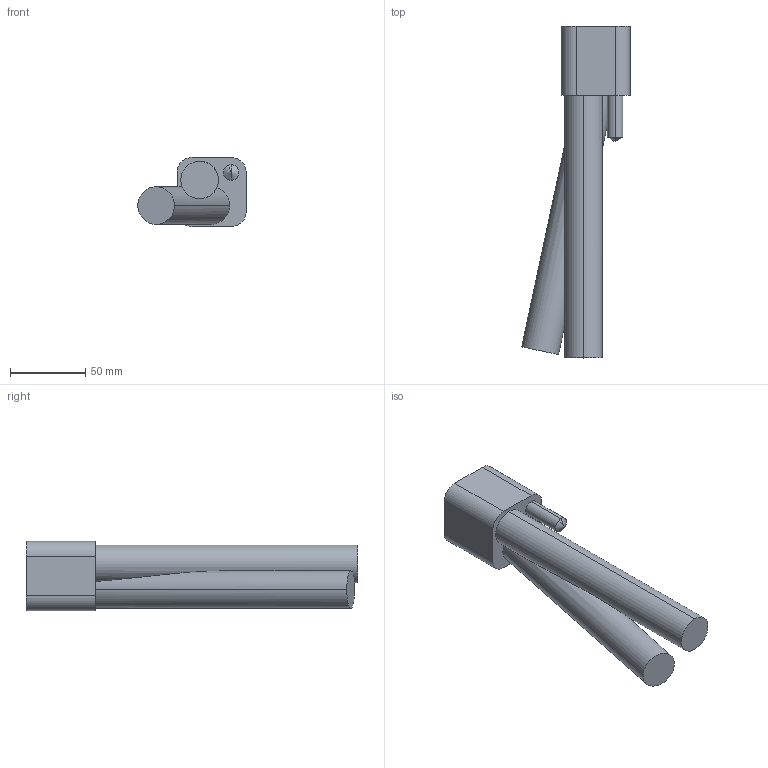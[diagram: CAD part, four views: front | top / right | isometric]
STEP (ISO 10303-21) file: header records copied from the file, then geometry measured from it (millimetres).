
FILE_DESCRIPTION (( 'STEP AP203' ), '1' );
FILE_NAME ('DR46100L-12.STEP', '2016-11-08T07:28:27', ( '' ), ( '' ), 'SwSTEP 2.0', 'SolidWorks 2015', '' );
FILE_SCHEMA (( 'CONFIG_CONTROL_DESIGN' ));
Length unit declared in the file: millimetre
Products named in the file (1): DR46100L-12
Bounding box: 72.19 x 221.03 x 46.02 mm (x, y, z)
Volume: 258996.6 mm3; surface area: 36012.9 mm2
Topology: 1 solids, 1 shells, 20 faces, 49 edges, 31 vertices
Faces by surface type: cylinder 10, plane 8, cone 2
Entity records: 732 total; most frequent: CARTESIAN_POINT 186, DIRECTION 102, ORIENTED_EDGE 94, EDGE_CURVE 47, AXIS2_PLACEMENT_3D 39, VERTEX_POINT 31, VECTOR 24, LINE 24
